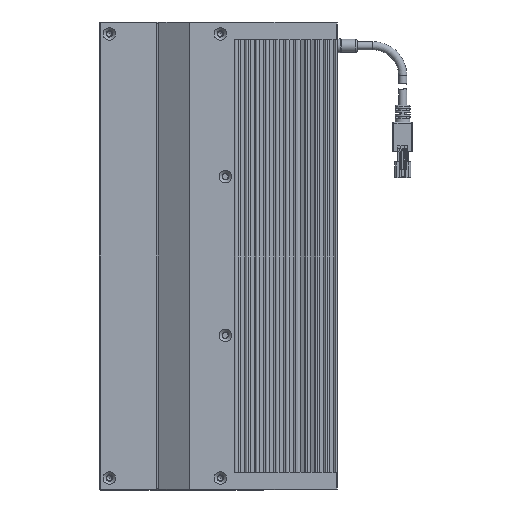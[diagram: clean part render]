
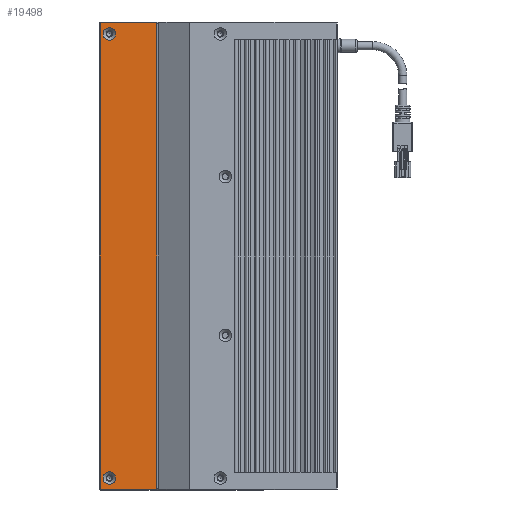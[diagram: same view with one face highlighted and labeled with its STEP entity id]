
A CAD part, left-side view. The second image highlights one B-rep face of the part: STEP entity #19498.
In plain terms, the highlighted planar face has unit normal (-1, 0, 0).
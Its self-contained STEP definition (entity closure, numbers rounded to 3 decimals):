
#876 = EDGE_LOOP ( 'NONE', ( #22093 ) ) ;
#1965 = DIRECTION ( 'NONE',  ( 0., 0., -1. ) ) ;
#2040 = DIRECTION ( 'NONE',  ( 0., 1., 0. ) ) ;
#2597 = EDGE_CURVE ( 'NONE', #7415, #7415, #19556, .T. ) ;
#2856 = DIRECTION ( 'NONE',  ( 0., -1., 0. ) ) ;
#3411 = CARTESIAN_POINT ( 'NONE',  ( -15.462, -6.987, 120. ) ) ;
#5359 = LINE ( 'NONE', #25317, #21213 ) ;
#5386 = VERTEX_POINT ( 'NONE', #16386 ) ;
#6761 = ORIENTED_EDGE ( 'NONE', *, *, #23140, .F. ) ;
#7208 = FACE_BOUND ( 'NONE', #876, .T. ) ;
#7236 = EDGE_CURVE ( 'NONE', #33476, #27220, #32308, .T. ) ;
#7308 = CARTESIAN_POINT ( 'NONE',  ( -15.462, 16.939, 349.5 ) ) ;
#7415 = VERTEX_POINT ( 'NONE', #8129 ) ;
#8129 = CARTESIAN_POINT ( 'NONE',  ( -15.462, 16.939, 352.65 ) ) ;
#9840 = EDGE_LOOP ( 'NONE', ( #25001, #6761, #11266, #10699 ) ) ;
#10125 = CARTESIAN_POINT ( 'NONE',  ( -15.462, 21.439, 353.5 ) ) ;
#10699 = ORIENTED_EDGE ( 'NONE', *, *, #22887, .F. ) ;
#11266 = ORIENTED_EDGE ( 'NONE', *, *, #22345, .F. ) ;
#12517 = DIRECTION ( 'NONE',  ( 1., 0., 0. ) ) ;
#13081 = CARTESIAN_POINT ( 'NONE',  ( -15.462, -7.561, 355. ) ) ;
#14775 = EDGE_CURVE ( 'NONE', #5386, #5386, #16403, .T. ) ;
#14794 = VECTOR ( 'NONE', #30892, 1000. ) ;
#16234 = VECTOR ( 'NONE', #2040, 1000. ) ;
#16386 = CARTESIAN_POINT ( 'NONE',  ( -15.462, 16.939, 128.65 ) ) ;
#16403 = CIRCLE ( 'NONE', #22665, 3.15 ) ;
#16807 = AXIS2_PLACEMENT_3D ( 'NONE', #27762, #12517, #1965 ) ;
#17521 = DIRECTION ( 'NONE',  ( 0., 0., -1. ) ) ;
#18019 = CARTESIAN_POINT ( 'NONE',  ( -15.462, 21.439, 120. ) ) ;
#18687 = LINE ( 'NONE', #24912, #16234 ) ;
#19333 = DIRECTION ( 'NONE',  ( 0., 0., 1. ) ) ;
#19498 = ADVANCED_FACE ( 'NONE', ( #21450, #26750, #7208 ), #25172, .F. ) ;
#19556 = CIRCLE ( 'NONE', #23029, 3.15 ) ;
#21213 = VECTOR ( 'NONE', #17521, 1000. ) ;
#21450 = FACE_BOUND ( 'NONE', #26017, .T. ) ;
#21850 = DIRECTION ( 'NONE',  ( -1., 0., 0. ) ) ;
#22093 = ORIENTED_EDGE ( 'NONE', *, *, #2597, .F. ) ;
#22345 = EDGE_CURVE ( 'NONE', #25404, #27632, #5359, .T. ) ;
#22397 = LINE ( 'NONE', #13081, #32977 ) ;
#22665 = AXIS2_PLACEMENT_3D ( 'NONE', #26864, #21850, #19333 ) ;
#22869 = CARTESIAN_POINT ( 'NONE',  ( -15.462, -6.987, 355. ) ) ;
#22887 = EDGE_CURVE ( 'NONE', #27220, #25404, #22397, .T. ) ;
#23029 = AXIS2_PLACEMENT_3D ( 'NONE', #7308, #25523, #28463 ) ;
#23140 = EDGE_CURVE ( 'NONE', #27632, #33476, #18687, .T. ) ;
#23313 = ORIENTED_EDGE ( 'NONE', *, *, #14775, .F. ) ;
#24912 = CARTESIAN_POINT ( 'NONE',  ( -15.462, -7.561, 120. ) ) ;
#25001 = ORIENTED_EDGE ( 'NONE', *, *, #7236, .F. ) ;
#25172 = PLANE ( 'NONE',  #16807 ) ;
#25317 = CARTESIAN_POINT ( 'NONE',  ( -15.462, -6.987, 353.5 ) ) ;
#25404 = VERTEX_POINT ( 'NONE', #22869 ) ;
#25523 = DIRECTION ( 'NONE',  ( -1., 0., 0. ) ) ;
#26017 = EDGE_LOOP ( 'NONE', ( #23313 ) ) ;
#26750 = FACE_OUTER_BOUND ( 'NONE', #9840, .T. ) ;
#26864 = CARTESIAN_POINT ( 'NONE',  ( -15.462, 16.939, 125.5 ) ) ;
#27220 = VERTEX_POINT ( 'NONE', #29237 ) ;
#27632 = VERTEX_POINT ( 'NONE', #3411 ) ;
#27762 = CARTESIAN_POINT ( 'NONE',  ( -15.462, -7.561, 353.5 ) ) ;
#28463 = DIRECTION ( 'NONE',  ( 0., 0., 1. ) ) ;
#29237 = CARTESIAN_POINT ( 'NONE',  ( -15.462, 21.439, 355. ) ) ;
#30892 = DIRECTION ( 'NONE',  ( 0., 0., 1. ) ) ;
#32308 = LINE ( 'NONE', #10125, #14794 ) ;
#32977 = VECTOR ( 'NONE', #2856, 1000. ) ;
#33476 = VERTEX_POINT ( 'NONE', #18019 ) ;
